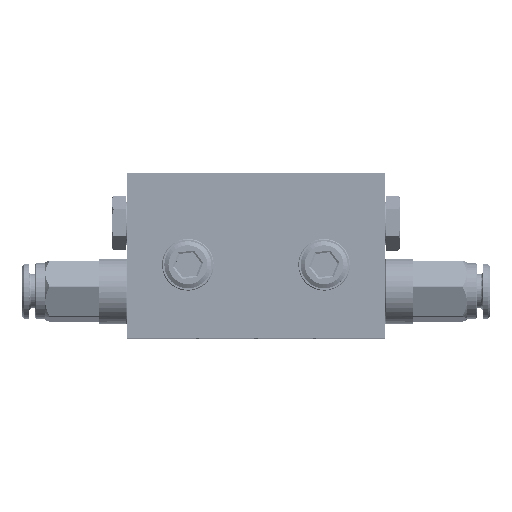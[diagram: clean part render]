
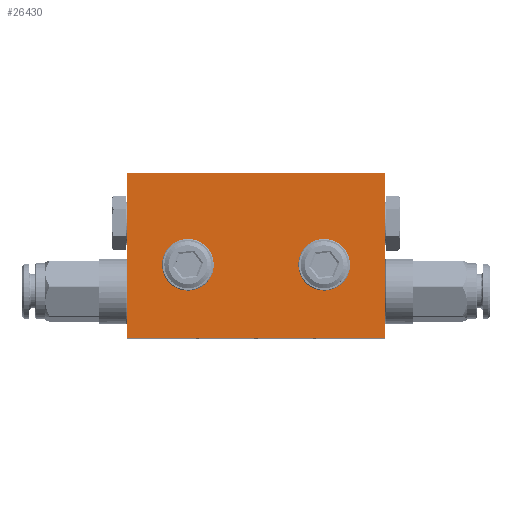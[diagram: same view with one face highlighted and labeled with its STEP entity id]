
A CAD part, top view. The second image highlights one B-rep face of the part: STEP entity #26430.
In plain terms, the highlighted planar face has unit normal (0, 0, 1) as drawn and (0, 0, -1) by its records, which use the part's own axes.
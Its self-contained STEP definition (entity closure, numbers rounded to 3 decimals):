
#3803 = DIRECTION ( 'NONE',  ( 0., 1., 0. ) ) ;
#6431 = FACE_BOUND ( 'NONE', #13419, .T. ) ;
#6568 = EDGE_CURVE ( 'NONE', #25895, #22557, #19592, .T. ) ;
#7193 = LINE ( 'NONE', #14695, #18692 ) ;
#9462 = VECTOR ( 'NONE', #34702, 1000. ) ;
#9631 = CIRCLE ( 'NONE', #37305, 3.1 ) ;
#10741 = DIRECTION ( 'NONE',  ( 1., 0., 0. ) ) ;
#10924 = AXIS2_PLACEMENT_3D ( 'NONE', #37929, #27791, #45899 ) ;
#12300 = ORIENTED_EDGE ( 'NONE', *, *, #22863, .F. ) ;
#13068 = CARTESIAN_POINT ( 'NONE',  ( 0., -35., -4.85 ) ) ;
#13419 = EDGE_LOOP ( 'NONE', ( #13451 ) ) ;
#13451 = ORIENTED_EDGE ( 'NONE', *, *, #27863, .F. ) ;
#14446 = EDGE_LOOP ( 'NONE', ( #15896, #27186, #26868, #40891 ) ) ;
#14695 = CARTESIAN_POINT ( 'NONE',  ( 27.5, 0., -4.85 ) ) ;
#15440 = CARTESIAN_POINT ( 'NONE',  ( 0., 0., -4.85 ) ) ;
#15443 = DIRECTION ( 'NONE',  ( 0., 0., -1. ) ) ;
#15896 = ORIENTED_EDGE ( 'NONE', *, *, #6568, .F. ) ;
#16234 = VERTEX_POINT ( 'NONE', #45361 ) ;
#16587 = VERTEX_POINT ( 'NONE', #25449 ) ;
#18692 = VECTOR ( 'NONE', #3803, 1000. ) ;
#19592 = LINE ( 'NONE', #13068, #9462 ) ;
#22111 = DIRECTION ( 'NONE',  ( 0., 0., 1. ) ) ;
#22557 = VERTEX_POINT ( 'NONE', #35000 ) ;
#22863 = EDGE_CURVE ( 'NONE', #34482, #34482, #9631, .T. ) ;
#22920 = CARTESIAN_POINT ( 'NONE',  ( 14.5, -15.5, -4.85 ) ) ;
#23150 = DIRECTION ( 'NONE',  ( -1., 0., 0. ) ) ;
#25088 = VECTOR ( 'NONE', #23150, 1000. ) ;
#25449 = CARTESIAN_POINT ( 'NONE',  ( 27.5, 0., -4.85 ) ) ;
#25895 = VERTEX_POINT ( 'NONE', #34633 ) ;
#26430 = ADVANCED_FACE ( 'NONE', ( #6431, #46679, #35570 ), #47119, .F. ) ;
#26499 = VECTOR ( 'NONE', #31643, 1000. ) ;
#26868 = ORIENTED_EDGE ( 'NONE', *, *, #42482, .F. ) ;
#27186 = ORIENTED_EDGE ( 'NONE', *, *, #30393, .F. ) ;
#27791 = DIRECTION ( 'NONE',  ( 0., 0., -1. ) ) ;
#27863 = EDGE_CURVE ( 'NONE', #16234, #16234, #34787, .T. ) ;
#30393 = EDGE_CURVE ( 'NONE', #43149, #25895, #35265, .T. ) ;
#31487 = CARTESIAN_POINT ( 'NONE',  ( -27.5, 0., -4.85 ) ) ;
#31643 = DIRECTION ( 'NONE',  ( 0., -1., 0. ) ) ;
#33713 = EDGE_LOOP ( 'NONE', ( #12300 ) ) ;
#34482 = VERTEX_POINT ( 'NONE', #37389 ) ;
#34633 = CARTESIAN_POINT ( 'NONE',  ( -27.5, -35., -4.85 ) ) ;
#34702 = DIRECTION ( 'NONE',  ( 1., 0., 0. ) ) ;
#34787 = CIRCLE ( 'NONE', #10924, 3.1 ) ;
#35000 = CARTESIAN_POINT ( 'NONE',  ( 27.5, -35., -4.85 ) ) ;
#35126 = EDGE_CURVE ( 'NONE', #22557, #16587, #7193, .T. ) ;
#35265 = LINE ( 'NONE', #46591, #26499 ) ;
#35570 = FACE_OUTER_BOUND ( 'NONE', #14446, .T. ) ;
#37305 = AXIS2_PLACEMENT_3D ( 'NONE', #22920, #15443, #37583 ) ;
#37389 = CARTESIAN_POINT ( 'NONE',  ( 11.4, -15.5, -4.85 ) ) ;
#37583 = DIRECTION ( 'NONE',  ( -1., 0., 0. ) ) ;
#37929 = CARTESIAN_POINT ( 'NONE',  ( -14.5, -15.5, -4.85 ) ) ;
#38137 = CARTESIAN_POINT ( 'NONE',  ( 0., 0., -4.85 ) ) ;
#40891 = ORIENTED_EDGE ( 'NONE', *, *, #35126, .F. ) ;
#41189 = LINE ( 'NONE', #15440, #25088 ) ;
#42482 = EDGE_CURVE ( 'NONE', #16587, #43149, #41189, .T. ) ;
#43149 = VERTEX_POINT ( 'NONE', #31487 ) ;
#44888 = AXIS2_PLACEMENT_3D ( 'NONE', #38137, #22111, #10741 ) ;
#45361 = CARTESIAN_POINT ( 'NONE',  ( -11.4, -15.5, -4.85 ) ) ;
#45899 = DIRECTION ( 'NONE',  ( 1., 0., 0. ) ) ;
#46591 = CARTESIAN_POINT ( 'NONE',  ( -27.5, 0., -4.85 ) ) ;
#46679 = FACE_BOUND ( 'NONE', #33713, .T. ) ;
#47119 = PLANE ( 'NONE',  #44888 ) ;
